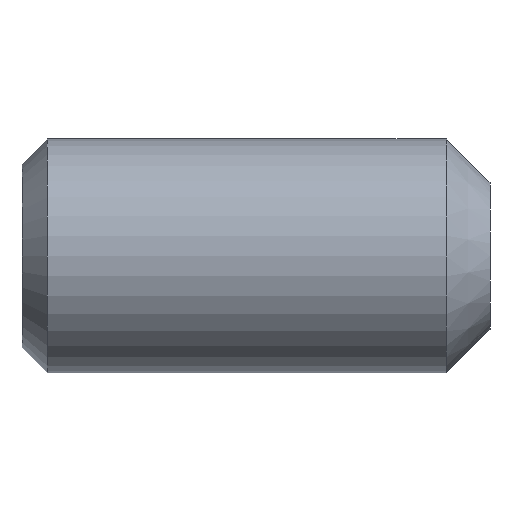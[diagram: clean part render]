
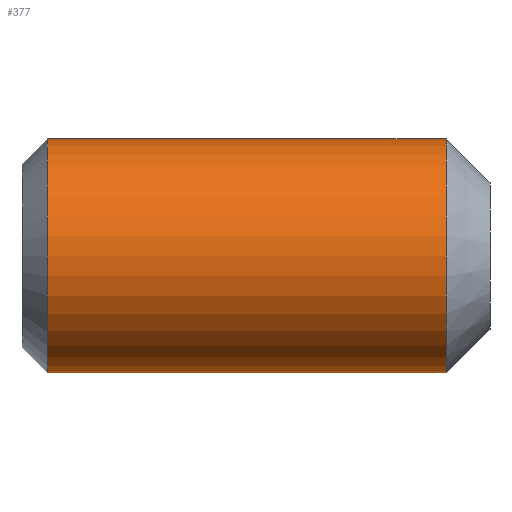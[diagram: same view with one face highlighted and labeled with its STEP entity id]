
A CAD part, front view. The second image highlights one B-rep face of the part: STEP entity #377.
In plain terms, the highlighted cylindrical face has radius 2 mm (diameter 4 mm), a partial arc.
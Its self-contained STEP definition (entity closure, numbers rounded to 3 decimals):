
#39 = DIRECTION ( 'NONE',  ( 1., 0., 0. ) ) ;
#48 = ORIENTED_EDGE ( 'NONE', *, *, #206, .T. ) ;
#63 = DIRECTION ( 'NONE',  ( 0., 0., -1. ) ) ;
#69 = ORIENTED_EDGE ( 'NONE', *, *, #225, .T. ) ;
#82 = CARTESIAN_POINT ( 'NONE',  ( 8., 0., 0. ) ) ;
#122 = EDGE_CURVE ( 'NONE', #149, #534, #138, .T. ) ;
#125 = DIRECTION ( 'NONE',  ( 0., 0., -1. ) ) ;
#138 = CIRCLE ( 'NONE', #501, 2. ) ;
#142 = ORIENTED_EDGE ( 'NONE', *, *, #122, .F. ) ;
#149 = VERTEX_POINT ( 'NONE', #229 ) ;
#156 = LINE ( 'NONE', #578, #291 ) ;
#206 = EDGE_CURVE ( 'NONE', #391, #510, #444, .T. ) ;
#214 = DIRECTION ( 'NONE',  ( 1., 0., 0. ) ) ;
#216 = DIRECTION ( 'NONE',  ( 1., 0., 0. ) ) ;
#225 = EDGE_CURVE ( 'NONE', #510, #534, #156, .T. ) ;
#229 = CARTESIAN_POINT ( 'NONE',  ( 7.25, 0., 2. ) ) ;
#258 = CARTESIAN_POINT ( 'NONE',  ( 8., 0., 2. ) ) ;
#291 = VECTOR ( 'NONE', #571, 1000. ) ;
#298 = CARTESIAN_POINT ( 'NONE',  ( 7.25, 0., -2. ) ) ;
#308 = FACE_OUTER_BOUND ( 'NONE', #461, .T. ) ;
#320 = DIRECTION ( 'NONE',  ( 0., 0., -1. ) ) ;
#377 = ADVANCED_FACE ( 'CYL_0', ( #308 ), #489, .T. ) ;
#391 = VERTEX_POINT ( 'NONE', #582 ) ;
#393 = AXIS2_PLACEMENT_3D ( 'NONE', #483, #216, #63 ) ;
#444 = CIRCLE ( 'NONE', #393, 2. ) ;
#457 = AXIS2_PLACEMENT_3D ( 'NONE', #82, #492, #125 ) ;
#461 = EDGE_LOOP ( 'NONE', ( #482, #48, #69, #142 ) ) ;
#475 = EDGE_CURVE ( 'NONE', #391, #149, #576, .T. ) ;
#482 = ORIENTED_EDGE ( 'NONE', *, *, #475, .F. ) ;
#483 = CARTESIAN_POINT ( 'NONE',  ( 0.43, 0., 0. ) ) ;
#489 = CYLINDRICAL_SURFACE ( 'NONE', #457, 2. ) ;
#492 = DIRECTION ( 'NONE',  ( 1., 0., 0. ) ) ;
#496 = CARTESIAN_POINT ( 'NONE',  ( 7.25, 0., 0. ) ) ;
#501 = AXIS2_PLACEMENT_3D ( 'NONE', #496, #39, #320 ) ;
#506 = VECTOR ( 'NONE', #214, 1000. ) ;
#510 = VERTEX_POINT ( 'NONE', #524 ) ;
#524 = CARTESIAN_POINT ( 'NONE',  ( 0.43, 0., -2. ) ) ;
#534 = VERTEX_POINT ( 'NONE', #298 ) ;
#571 = DIRECTION ( 'NONE',  ( 1., 0., 0. ) ) ;
#576 = LINE ( 'NONE', #258, #506 ) ;
#578 = CARTESIAN_POINT ( 'NONE',  ( 8., 0., -2. ) ) ;
#582 = CARTESIAN_POINT ( 'NONE',  ( 0.43, 0., 2. ) ) ;
